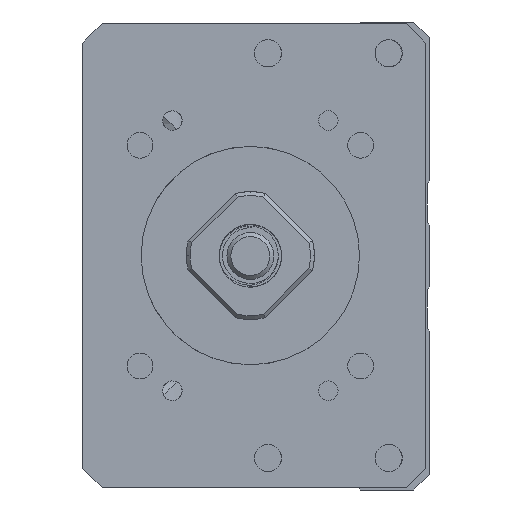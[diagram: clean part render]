
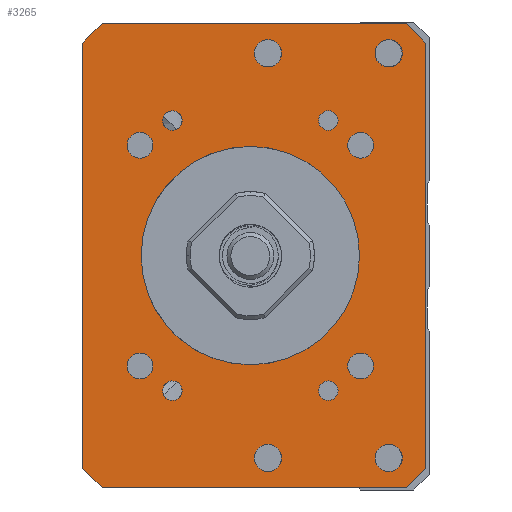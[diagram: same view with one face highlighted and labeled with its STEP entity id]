
A CAD part, left-side view. The second image highlights one B-rep face of the part: STEP entity #3265.
In plain terms, the highlighted planar face has unit normal (-1, 0, 0).
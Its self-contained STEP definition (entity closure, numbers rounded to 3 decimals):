
#1091=PLANE('',#11091);
#1842=LINE('',#16998,#2681);
#1844=LINE('',#17022,#2683);
#1845=LINE('',#17024,#2684);
#1846=LINE('',#17026,#2685);
#1847=LINE('',#17028,#2686);
#1848=LINE('',#17030,#2687);
#1849=LINE('',#17032,#2688);
#1850=LINE('',#17034,#2689);
#2681=VECTOR('',#13501,1.);
#2683=VECTOR('',#13525,1.);
#2684=VECTOR('',#13526,1.);
#2685=VECTOR('',#13527,1.);
#2686=VECTOR('',#13528,1.);
#2687=VECTOR('',#13529,1.);
#2688=VECTOR('',#13530,1.);
#2689=VECTOR('',#13531,1.);
#3265=ADVANCED_FACE('',(#3961,#3962,#3963,#3964,#3965,#3966,#3967,#3968,
#3969,#3970,#3971,#3972,#3973,#3974),#1091,.F.);
#3961=FACE_BOUND('',#4705,.T.);
#3962=FACE_BOUND('',#4706,.T.);
#3963=FACE_BOUND('',#4707,.T.);
#3964=FACE_BOUND('',#4708,.T.);
#3965=FACE_BOUND('',#4709,.T.);
#3966=FACE_BOUND('',#4710,.T.);
#3967=FACE_BOUND('',#4711,.T.);
#3968=FACE_BOUND('',#4712,.T.);
#3969=FACE_BOUND('',#4713,.T.);
#3970=FACE_BOUND('',#4714,.T.);
#3971=FACE_BOUND('',#4715,.T.);
#3972=FACE_BOUND('',#4716,.T.);
#3973=FACE_BOUND('',#4717,.T.);
#3974=FACE_BOUND('',#4718,.T.);
#4705=EDGE_LOOP('',(#6961));
#4706=EDGE_LOOP('',(#6962));
#4707=EDGE_LOOP('',(#6963));
#4708=EDGE_LOOP('',(#6964));
#4709=EDGE_LOOP('',(#6965));
#4710=EDGE_LOOP('',(#6966));
#4711=EDGE_LOOP('',(#6967));
#4712=EDGE_LOOP('',(#6968));
#4713=EDGE_LOOP('',(#6969));
#4714=EDGE_LOOP('',(#6970,#6971,#6972,#6973,#6974,#6975,#6976,#6977));
#4715=EDGE_LOOP('',(#6978));
#4716=EDGE_LOOP('',(#6979));
#4717=EDGE_LOOP('',(#6980));
#4718=EDGE_LOOP('',(#6981));
#6961=ORIENTED_EDGE('',*,*,#9653,.F.);
#6962=ORIENTED_EDGE('',*,*,#9654,.F.);
#6963=ORIENTED_EDGE('',*,*,#9655,.F.);
#6964=ORIENTED_EDGE('',*,*,#9656,.F.);
#6965=ORIENTED_EDGE('',*,*,#9657,.F.);
#6966=ORIENTED_EDGE('',*,*,#9658,.T.);
#6967=ORIENTED_EDGE('',*,*,#9659,.F.);
#6968=ORIENTED_EDGE('',*,*,#9660,.F.);
#6969=ORIENTED_EDGE('',*,*,#9661,.F.);
#6970=ORIENTED_EDGE('',*,*,#9650,.T.);
#6971=ORIENTED_EDGE('',*,*,#9662,.T.);
#6972=ORIENTED_EDGE('',*,*,#9663,.F.);
#6973=ORIENTED_EDGE('',*,*,#9664,.T.);
#6974=ORIENTED_EDGE('',*,*,#9665,.F.);
#6975=ORIENTED_EDGE('',*,*,#9666,.T.);
#6976=ORIENTED_EDGE('',*,*,#9667,.T.);
#6977=ORIENTED_EDGE('',*,*,#9668,.T.);
#6978=ORIENTED_EDGE('',*,*,#9669,.F.);
#6979=ORIENTED_EDGE('',*,*,#9670,.F.);
#6980=ORIENTED_EDGE('',*,*,#9671,.F.);
#6981=ORIENTED_EDGE('',*,*,#9630,.F.);
#8373=VERTEX_POINT('',#16937);
#8393=VERTEX_POINT('',#16997);
#8394=VERTEX_POINT('',#16999);
#8396=VERTEX_POINT('',#17005);
#8397=VERTEX_POINT('',#17007);
#8398=VERTEX_POINT('',#17009);
#8399=VERTEX_POINT('',#17011);
#8400=VERTEX_POINT('',#17013);
#8401=VERTEX_POINT('',#17015);
#8402=VERTEX_POINT('',#17017);
#8403=VERTEX_POINT('',#17019);
#8404=VERTEX_POINT('',#17021);
#8405=VERTEX_POINT('',#17023);
#8406=VERTEX_POINT('',#17025);
#8407=VERTEX_POINT('',#17027);
#8408=VERTEX_POINT('',#17029);
#8409=VERTEX_POINT('',#17031);
#8410=VERTEX_POINT('',#17033);
#8411=VERTEX_POINT('',#17036);
#8412=VERTEX_POINT('',#17038);
#8413=VERTEX_POINT('',#17040);
#9630=EDGE_CURVE('',#8373,#8373,#10235,.T.);
#9650=EDGE_CURVE('',#8394,#8393,#1842,.T.);
#9653=EDGE_CURVE('',#8396,#8396,#10244,.T.);
#9654=EDGE_CURVE('',#8397,#8397,#10245,.T.);
#9655=EDGE_CURVE('',#8398,#8398,#10246,.T.);
#9656=EDGE_CURVE('',#8399,#8399,#10247,.T.);
#9657=EDGE_CURVE('',#8400,#8400,#10248,.T.);
#9658=EDGE_CURVE('',#8401,#8401,#10249,.T.);
#9659=EDGE_CURVE('',#8402,#8402,#10250,.T.);
#9660=EDGE_CURVE('',#8403,#8403,#10251,.T.);
#9661=EDGE_CURVE('',#8404,#8404,#10252,.T.);
#9662=EDGE_CURVE('',#8393,#8405,#1844,.T.);
#9663=EDGE_CURVE('',#8406,#8405,#1845,.T.);
#9664=EDGE_CURVE('',#8406,#8407,#1846,.T.);
#9665=EDGE_CURVE('',#8408,#8407,#1847,.T.);
#9666=EDGE_CURVE('',#8408,#8409,#1848,.T.);
#9667=EDGE_CURVE('',#8409,#8410,#1849,.T.);
#9668=EDGE_CURVE('',#8410,#8394,#1850,.T.);
#9669=EDGE_CURVE('',#8411,#8411,#10253,.T.);
#9670=EDGE_CURVE('',#8412,#8412,#10254,.T.);
#9671=EDGE_CURVE('',#8413,#8413,#10255,.T.);
#10235=CIRCLE('',#11068,14.);
#10244=CIRCLE('',#11079,1.65);
#10245=CIRCLE('',#11080,1.65);
#10246=CIRCLE('',#11081,1.65);
#10247=CIRCLE('',#11082,1.65);
#10248=CIRCLE('',#11083,1.25);
#10249=CIRCLE('',#11084,1.75);
#10250=CIRCLE('',#11085,1.25);
#10251=CIRCLE('',#11086,1.75);
#10252=CIRCLE('',#11087,1.25);
#10253=CIRCLE('',#11088,1.75);
#10254=CIRCLE('',#11089,1.75);
#10255=CIRCLE('',#11090,1.25);
#11068=AXIS2_PLACEMENT_3D('',#16936,#13475,#13476);
#11079=AXIS2_PLACEMENT_3D('',#17004,#13507,#13508);
#11080=AXIS2_PLACEMENT_3D('',#17006,#13509,#13510);
#11081=AXIS2_PLACEMENT_3D('',#17008,#13511,#13512);
#11082=AXIS2_PLACEMENT_3D('',#17010,#13513,#13514);
#11083=AXIS2_PLACEMENT_3D('',#17012,#13515,#13516);
#11084=AXIS2_PLACEMENT_3D('',#17014,#13517,#13518);
#11085=AXIS2_PLACEMENT_3D('',#17016,#13519,#13520);
#11086=AXIS2_PLACEMENT_3D('',#17018,#13521,#13522);
#11087=AXIS2_PLACEMENT_3D('',#17020,#13523,#13524);
#11088=AXIS2_PLACEMENT_3D('',#17035,#13532,#13533);
#11089=AXIS2_PLACEMENT_3D('',#17037,#13534,#13535);
#11090=AXIS2_PLACEMENT_3D('',#17039,#13536,#13537);
#11091=AXIS2_PLACEMENT_3D('',#17041,#13538,#13539);
#13475=DIRECTION('',(-1.,0.,0.));
#13476=DIRECTION('',(0.,1.,0.));
#13501=DIRECTION('',(0.,0.,-1.));
#13507=DIRECTION('',(-1.,0.,0.));
#13508=DIRECTION('',(0.,0.,1.));
#13509=DIRECTION('',(-1.,0.,0.));
#13510=DIRECTION('',(0.,0.,1.));
#13511=DIRECTION('',(-1.,0.,0.));
#13512=DIRECTION('',(0.,0.,1.));
#13513=DIRECTION('',(-1.,0.,0.));
#13514=DIRECTION('',(0.,0.,1.));
#13515=DIRECTION('',(-1.,0.,0.));
#13516=DIRECTION('',(0.,1.,0.));
#13517=DIRECTION('',(1.,0.,0.));
#13518=DIRECTION('',(0.,0.,1.));
#13519=DIRECTION('',(-1.,0.,0.));
#13520=DIRECTION('',(0.,1.,0.));
#13521=DIRECTION('',(-1.,0.,0.));
#13522=DIRECTION('',(0.,0.,1.));
#13523=DIRECTION('',(-1.,0.,0.));
#13524=DIRECTION('',(0.,1.,0.));
#13525=DIRECTION('',(0.,-0.707,-0.707));
#13526=DIRECTION('',(0.,1.,0.));
#13527=DIRECTION('',(0.,-0.707,0.707));
#13528=DIRECTION('',(0.,0.,-1.));
#13529=DIRECTION('',(0.,0.707,0.707));
#13530=DIRECTION('',(0.,1.,0.));
#13531=DIRECTION('',(0.,0.707,-0.707));
#13532=DIRECTION('',(-1.,0.,0.));
#13533=DIRECTION('',(0.,0.,1.));
#13534=DIRECTION('',(-1.,0.,0.));
#13535=DIRECTION('',(0.,0.,1.));
#13536=DIRECTION('',(-1.,0.,0.));
#13537=DIRECTION('',(0.,1.,0.));
#13538=DIRECTION('',(1.,0.,0.));
#13539=DIRECTION('',(0.,1.,0.));
#16936=CARTESIAN_POINT('',(-211.,0.,-500.));
#16937=CARTESIAN_POINT('',(-211.,14.,-500.));
#16997=CARTESIAN_POINT('',(-211.,21.499,-527.25));
#16998=CARTESIAN_POINT('',(-211.,21.499,-470.25));
#16999=CARTESIAN_POINT('',(-211.,21.499,-472.75));
#17004=CARTESIAN_POINT('',(-211.,14.142,-485.858));
#17005=CARTESIAN_POINT('',(-211.,14.142,-484.208));
#17006=CARTESIAN_POINT('',(-211.,-14.142,-485.858));
#17007=CARTESIAN_POINT('',(-211.,-14.142,-484.208));
#17008=CARTESIAN_POINT('',(-211.,14.142,-514.142));
#17009=CARTESIAN_POINT('',(-211.,14.142,-512.492));
#17010=CARTESIAN_POINT('',(-211.,-14.142,-514.142));
#17011=CARTESIAN_POINT('',(-211.,-14.142,-512.492));
#17012=CARTESIAN_POINT('',(-211.,-10.,-517.321));
#17013=CARTESIAN_POINT('',(-211.,-8.75,-517.321));
#17014=CARTESIAN_POINT('',(-211.,-2.25,-525.936));
#17015=CARTESIAN_POINT('',(-211.,-2.25,-524.186));
#17016=CARTESIAN_POINT('',(-211.,10.,-482.679));
#17017=CARTESIAN_POINT('',(-211.,11.25,-482.679));
#17018=CARTESIAN_POINT('',(-211.,-2.25,-474.064));
#17019=CARTESIAN_POINT('',(-211.,-2.25,-472.314));
#17020=CARTESIAN_POINT('',(-211.,10.,-517.321));
#17021=CARTESIAN_POINT('',(-211.,11.25,-517.321));
#17022=CARTESIAN_POINT('',(-211.,18.999,-529.75));
#17023=CARTESIAN_POINT('',(-211.,18.999,-529.75));
#17024=CARTESIAN_POINT('',(-211.,-22.501,-529.75));
#17025=CARTESIAN_POINT('',(-211.,-20.001,-529.75));
#17026=CARTESIAN_POINT('',(-211.,-22.501,-527.25));
#17027=CARTESIAN_POINT('',(-211.,-22.501,-527.25));
#17028=CARTESIAN_POINT('',(-211.,-22.501,-470.25));
#17029=CARTESIAN_POINT('',(-211.,-22.501,-472.75));
#17030=CARTESIAN_POINT('',(-211.,-22.501,-472.75));
#17031=CARTESIAN_POINT('',(-211.,-20.001,-470.25));
#17032=CARTESIAN_POINT('',(-211.,-22.501,-470.25));
#17033=CARTESIAN_POINT('',(-211.,18.999,-470.25));
#17034=CARTESIAN_POINT('',(-211.,18.999,-470.25));
#17035=CARTESIAN_POINT('',(-211.,-17.75,-474.064));
#17036=CARTESIAN_POINT('',(-211.,-17.75,-472.314));
#17037=CARTESIAN_POINT('',(-211.,-17.75,-525.936));
#17038=CARTESIAN_POINT('',(-211.,-17.75,-524.186));
#17039=CARTESIAN_POINT('',(-211.,-10.,-482.679));
#17040=CARTESIAN_POINT('',(-211.,-8.75,-482.679));
#17041=CARTESIAN_POINT('',(-211.,-22.501,-470.25));
